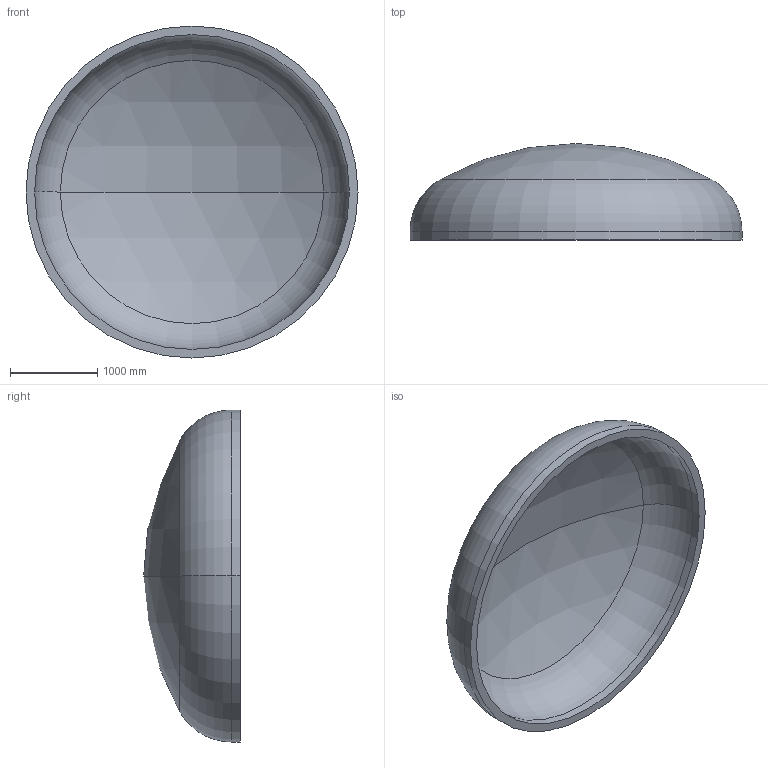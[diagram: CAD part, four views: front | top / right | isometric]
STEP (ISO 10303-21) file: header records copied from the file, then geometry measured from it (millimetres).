
FILE_DESCRIPTION (( 'STEP AP203' ), '1' );
FILE_NAME ('DIN 28013 Korbbogenform_-_Boden DIN 28013 - 3800 x 100 - I - s=98.step', '2016-07-01T21:47:26', ( '' ), ( '' ), 'SwSTEP 2.0', 'SolidWorks 2013', '' );
FILE_SCHEMA (( 'CONFIG_CONTROL_DESIGN' ));
Length unit declared in the file: millimetre
Products named in the file (1): DIN 28013 Korbbogenform_-_Boden DIN 28013 - 3800 x 100 - I - s=98
Bounding box: 3800 x 1105.88 x 3800 mm (x, y, z)
Volume: 1602025138.5 mm3; surface area: 33854251.2 mm2
Topology: 1 solids, 1 shells, 13 faces, 24 edges, 14 vertices
Faces by surface type: torus 4, cylinder 4, sphere 4, plane 1
Entity records: 407 total; most frequent: DIRECTION 72, CARTESIAN_POINT 52, ORIENTED_EDGE 48, AXIS2_PLACEMENT_3D 34, EDGE_CURVE 24, CIRCLE 20, VERTEX_POINT 14, EDGE_LOOP 14
